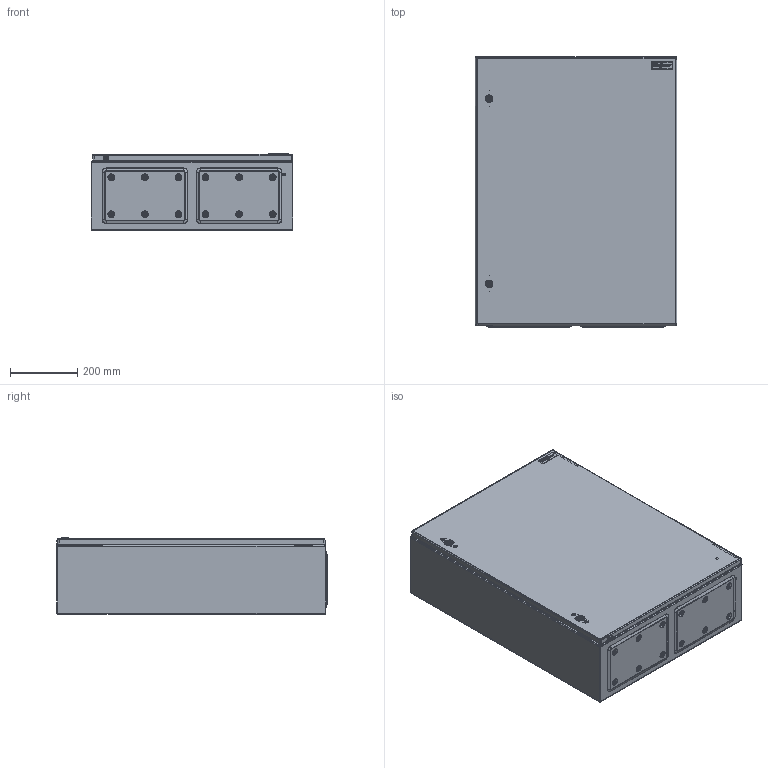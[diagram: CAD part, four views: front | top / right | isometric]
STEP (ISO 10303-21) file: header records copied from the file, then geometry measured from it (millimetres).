
FILE_DESCRIPTION (( 'STEP AP203' ), '1' );
FILE_NAME ('g800600225g.STEP', '2010-02-11T18:10:12', ( 'Hoffman User' ), ( 'Hoffman Enclosures' ), 'SwSTEP 2.0', 'SolidWorks 2009', '' );
FILE_SCHEMA (( 'CONFIG_CONTROL_DESIGN' ));
Products named in the file (25): 87956988_87956988; 87957018_87957018; 64101004_Latch Open; 64201001; 87951487_87930568; 87951464; 87951490; 87930893_87930893; 87930883_87930883; g800600225g; 87956938_87956938; 87956954_87956954; 23271001_After Weld; 87957030_87954719; 87929949_87929949; 99401225; 87931362_87931362; 64291001; 64203001; 87954539_16ga; 87951470_87951470; 87951739; 87952844_87952844; 87928600; 18287_Assembled
Assembly tree (41 placements, depth 4):
  g800600225g
    87956988_87956988
      87954539_16ga  x2
      64101004_Latch Open  x2
        64201001
        64291001
        64203001
      87957018_87957018
        87929949_87929949  x2
        87931362_87931362  x4
        87957030_87954719
        99401225
    87951470_87951470  x2
    87951490  x4
      87951464
      87951739
    87952844_87952844
    18287_Assembled  x2
      87930893_87930893
        87930883_87930883
    87951487_87930568  x2
    87928600
    87956938_87956938
      23271001_After Weld  x4
      99401225  x2
      87956954_87956954
Bounding box: 600 x 804.95 x 226.7 mm (x, y, z)
Volume: 3268238.9 mm3; surface area: 4393796.6 mm2
Topology: 41 solids, 41 shells, 2577 faces, 6444 edges, 4024 vertices
Faces by surface type: plane 979, cylinder 820, bspline 384, torus 270, cone 124
Entity records: 56117 total; most frequent: CARTESIAN_POINT 19183, ORIENTED_EDGE 7336, DIRECTION 6595, EDGE_CURVE 3668, AXIS2_PLACEMENT_3D 2369, VERTEX_POINT 2291, VECTOR 1857, LINE 1857
